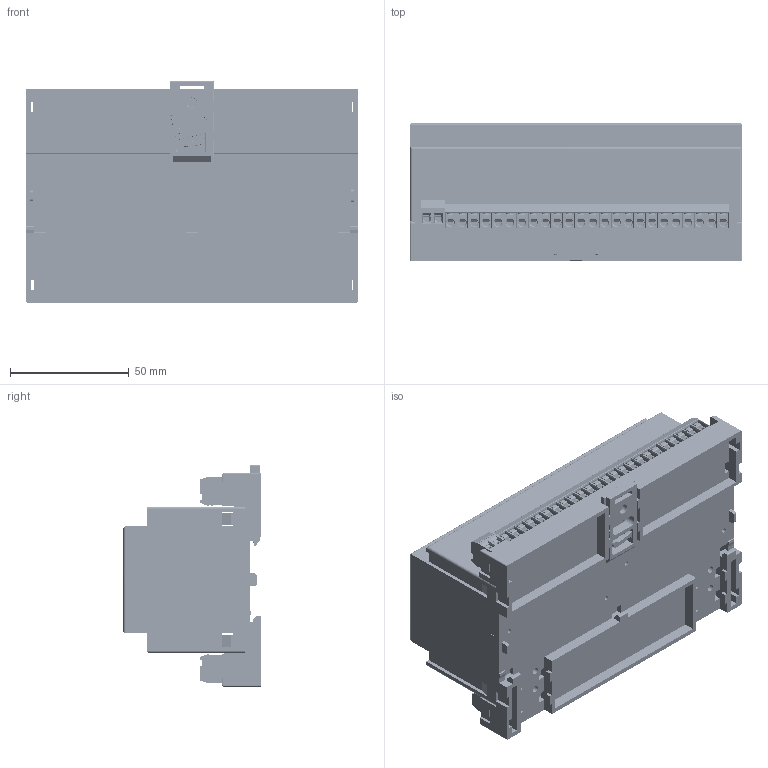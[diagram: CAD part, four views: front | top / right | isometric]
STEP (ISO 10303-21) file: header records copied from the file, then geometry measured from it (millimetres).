
FILE_DESCRIPTION (( 'STEP AP214' ), '1' );
FILE_NAME ('12280-1901-00_3D.STEP', '2013-12-02T06:51:36', ( '' ), ( '' ), 'SwSTEP 2.0', 'SolidWorks 2013', '' );
FILE_SCHEMA (( 'AUTOMOTIVE_DESIGN' ));
Length unit declared in the file: millimetre
Products named in the file (12): V8_Frontplatte; nk236w; TR800Web_Oberteil; V8_Leiterplatte; V8_Unterteil; 12280-1901-00_3D; Typenschild-T224164; 31137106; 31137103; 31137102; 31007103; V-Riegel_3D
Assembly tree (23 placements, depth 2):
  12280-1901-00_3D
    V8_Unterteil
    V8_Leiterplatte
    TR800Web_Oberteil
    nk236w
    V8_Frontplatte
    V-Riegel_3D
    31007103  x8
    31137102
    31137103  x6
    31137106
    Typenschild-T224164
Bounding box: 140 x 58 x 93.34 mm (x, y, z)
Volume: 134173.2 mm3; surface area: 165367.7 mm2
Topology: 897 solids, 897 shells, 15821 faces, 41408 edges, 27373 vertices
Faces by surface type: plane 12621, cylinder 1442, bspline 1363, cone 318, torus 61, sphere 16
Full cylindrical faces by diameter (mm): 0.2 x32, 0.6 x6, 0.8 x1, 1 x1, 1.4 x3, 1.5 x32, 1.8 x4, 1.84 x2, 1.9 x24, 2 x54, 2.2 x2, 2.25 x26, 2.4 x26, 2.5 x1, 2.7 x26, 2.8 x25, 3 x82, 3.26 x1, 3.5 x4, 3.9 x26, 4.2 x1, 4.5 x4
Entity records: 407931 total; most frequent: CARTESIAN_POINT 106554, ORIENTED_EDGE 60196, DIRECTION 50806, EDGE_CURVE 30098, LINE 25820, VECTOR 25820, VERTEX_POINT 20121, EDGE_LOOP 13069
